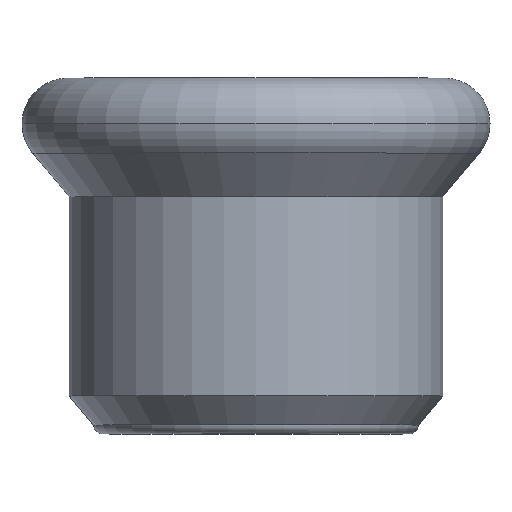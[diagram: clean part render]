
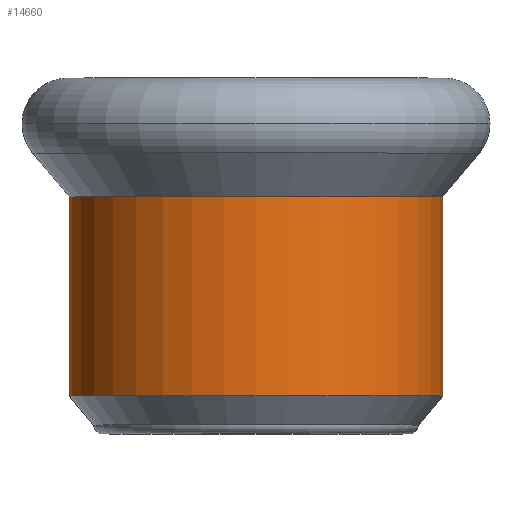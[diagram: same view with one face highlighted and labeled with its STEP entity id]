
A CAD part, top view. The second image highlights one B-rep face of the part: STEP entity #14660.
In plain terms, the highlighted cylindrical face has radius 12.65 mm (diameter 25.3 mm), a partial arc.
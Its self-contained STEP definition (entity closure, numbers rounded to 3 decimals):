
#1380=CARTESIAN_POINT('',(-306.641,56.893,0.));
#1390=VERTEX_POINT('',#1380);
#1570=CARTESIAN_POINT('',(-331.941,56.893,
0.));
#1580=VERTEX_POINT('',#1570);
#1610=CARTESIAN_POINT('',(-319.291,56.893,0.));
#1620=DIRECTION('',(0.,1.,0.));
#1630=DIRECTION('',(-1.,0.,0.));
#1640=AXIS2_PLACEMENT_3D('',#1610,#1620,#1630);
#1650=CIRCLE('',#1640,12.65);
#1710=CARTESIAN_POINT('',(-319.291,50.141,0.));
#1720=DIRECTION('',(0.,-1.,0.));
#1730=DIRECTION('',(-1.,0.,0.));
#1740=AXIS2_PLACEMENT_3D('',#1710,#1720,#1730);
#1750=CYLINDRICAL_SURFACE('',#1740,12.65);
#1760=CARTESIAN_POINT('',(-306.641,50.141,
0.));
#1770=DIRECTION('',(0.,-1.,0.));
#1780=VECTOR('',#1770,1.);
#1790=LINE('',#1760,#1780);
#1800=CARTESIAN_POINT('',(-306.641,43.401,
0.));
#1810=VERTEX_POINT('',#1800);
#1820=EDGE_CURVE('',#1390,#1810,#1790,.T.);
#1850=CARTESIAN_POINT('',(-331.941,50.141,0.));
#1860=DIRECTION('',(0.,-1.,0.));
#1870=VECTOR('',#1860,1.);
#1880=LINE('',#1850,#1870);
#1890=CARTESIAN_POINT('',(-331.941,43.401,0.));
#1900=VERTEX_POINT('',#1890);
#1910=EDGE_CURVE('',#1580,#1900,#1880,.T.);
#1930=CARTESIAN_POINT('',(-319.291,43.401,0.));
#1940=DIRECTION('',(0.,1.,0.));
#1950=DIRECTION('',(-1.,0.,0.));
#1960=AXIS2_PLACEMENT_3D('',#1930,#1940,#1950);
#1970=CIRCLE('',#1960,12.65);
#14460=EDGE_CURVE('',#1900,#1810,#1970,.T.);
#14590=ORIENTED_EDGE('',*,*,#14460,.T.);
#14600=ORIENTED_EDGE('',*,*,#1910,.T.);
#14610=EDGE_CURVE('',#1580,#1390,#1650,.T.);
#14620=ORIENTED_EDGE('',*,*,#14610,.F.);
#14630=ORIENTED_EDGE('',*,*,#1820,.F.);
#14640=EDGE_LOOP('',(#14630,#14620,#14600,#14590));
#14650=FACE_OUTER_BOUND('',#14640,.T.);
#14660=ADVANCED_FACE('',(#14650),#1750,.T.);
